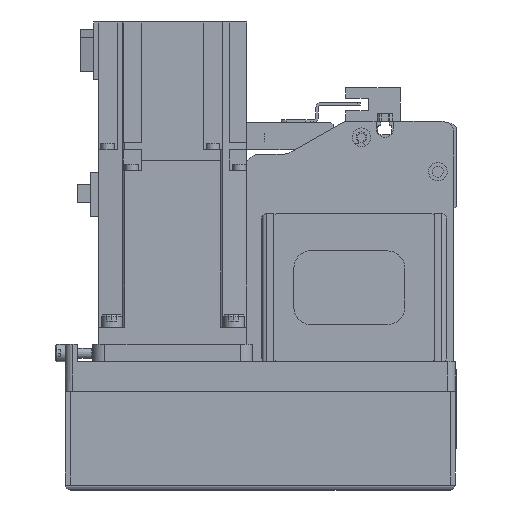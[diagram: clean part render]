
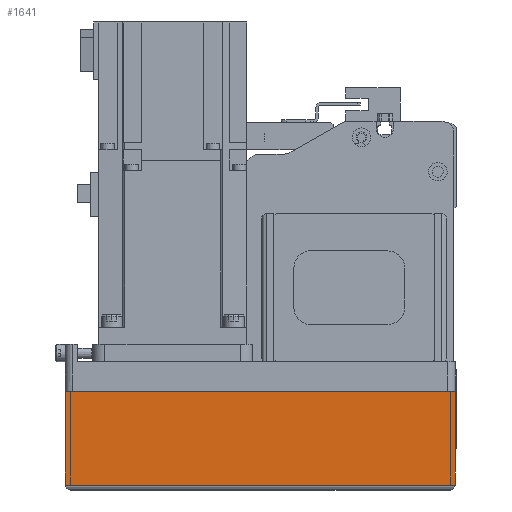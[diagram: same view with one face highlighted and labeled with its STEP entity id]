
A CAD part, left-side view. The second image highlights one B-rep face of the part: STEP entity #1641.
In plain terms, the highlighted planar face has unit normal (-1, 0, 0) as drawn and (0, -1, 0) by its records, which use the part's own axes.
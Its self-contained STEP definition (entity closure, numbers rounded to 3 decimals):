
#1641 = ADVANCED_FACE( '', ( #4136 ), #4137, .T. );
#4136 = FACE_OUTER_BOUND( '', #7640, .T. );
#4137 = PLANE( '', #7641 );
#7640 = EDGE_LOOP( '', ( #12191, #12192, #12193, #12194 ) );
#7641 = AXIS2_PLACEMENT_3D( '', #12195, #12196, #12197 );
#12191 = ORIENTED_EDGE( '', *, *, #20816, .F. );
#12192 = ORIENTED_EDGE( '', *, *, #20817, .F. );
#12193 = ORIENTED_EDGE( '', *, *, #20181, .T. );
#12194 = ORIENTED_EDGE( '', *, *, #20818, .T. );
#12195 = CARTESIAN_POINT( '', ( -158., -39., -12.1 ) );
#12196 = DIRECTION( '', ( 0., -1., 0. ) );
#12197 = DIRECTION( '', ( 0., 0., -1. ) );
#20181 = EDGE_CURVE( '', #24158, #24162, #24164, .T. );
#20816 = EDGE_CURVE( '', #25255, #25256, #25257, .T. );
#20817 = EDGE_CURVE( '', #24158, #25255, #25258, .T. );
#20818 = EDGE_CURVE( '', #24162, #25256, #25259, .T. );
#24158 = VERTEX_POINT( '', #30091 );
#24162 = VERTEX_POINT( '', #30097 );
#24164 = LINE( '', #30100, #30101 );
#25255 = VERTEX_POINT( '', #31648 );
#25256 = VERTEX_POINT( '', #31649 );
#25257 = LINE( '', #31650, #31651 );
#25258 = LINE( '', #31652, #31653 );
#25259 = LINE( '', #31654, #31655 );
#30091 = CARTESIAN_POINT( '', ( -158., -39., -12.1 ) );
#30097 = CARTESIAN_POINT( '', ( -158., -39., -50. ) );
#30100 = CARTESIAN_POINT( '', ( -158., -39., -12.1 ) );
#30101 = VECTOR( '', #37520, 1000. );
#31648 = CARTESIAN_POINT( '', ( 0., -39., -12.1 ) );
#31649 = CARTESIAN_POINT( '', ( 0., -39., -50. ) );
#31650 = CARTESIAN_POINT( '', ( 0., -39., -12.1 ) );
#31651 = VECTOR( '', #38387, 1000. );
#31652 = CARTESIAN_POINT( '', ( -158., -39., -12.1 ) );
#31653 = VECTOR( '', #38388, 1000. );
#31654 = CARTESIAN_POINT( '', ( -158., -39., -50. ) );
#31655 = VECTOR( '', #38389, 1000. );
#37520 = DIRECTION( '', ( 0., 0., -1. ) );
#38387 = DIRECTION( '', ( 0., 0., -1. ) );
#38388 = DIRECTION( '', ( 1., 0., 0. ) );
#38389 = DIRECTION( '', ( 1., 0., 0. ) );
